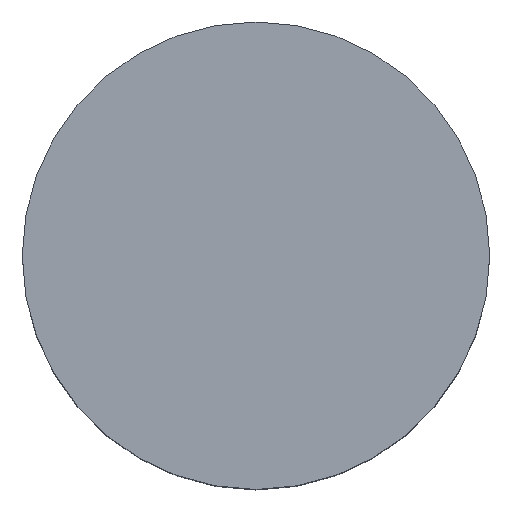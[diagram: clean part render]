
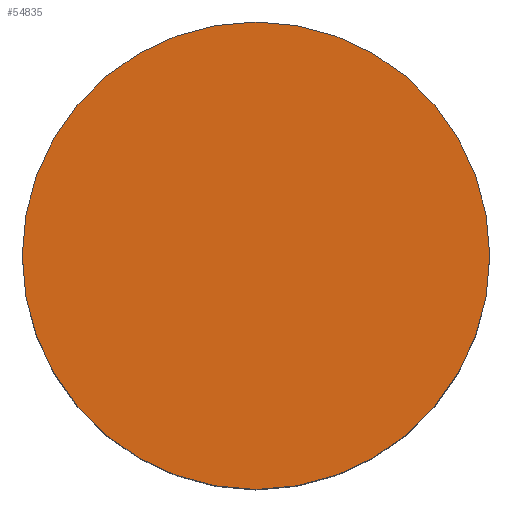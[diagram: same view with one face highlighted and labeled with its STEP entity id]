
A CAD part, top view. The second image highlights one B-rep face of the part: STEP entity #54835.
In plain terms, the highlighted planar face has unit normal (0, 0, 1).
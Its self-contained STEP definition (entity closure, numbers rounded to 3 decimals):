
#16541 = CARTESIAN_POINT ( 'NONE',  ( -30.15, 0., 41. ) ) ;
#16542 = CARTESIAN_POINT ( 'NONE',  ( 30.15, 0., 41. ) ) ;
#16543 = DIRECTION ( 'NONE',  ( 1., 0., 0. ) ) ;
#16544 = DIRECTION ( 'NONE',  ( 0., 0., 1. ) ) ;
#16545 = AXIS2_PLACEMENT_3D ( 'NONE', #16552, #16544, #16543 ) ;
#16546 = CIRCLE ( 'NONE', #16545, 30.15 ) ;
#16552 = CARTESIAN_POINT ( 'NONE',  ( 0., 0., 41. ) ) ;
#16730 = FACE_OUTER_BOUND ( 'NONE', #54836, .T. ) ;
#16784 = DIRECTION ( 'NONE',  ( 1., 0., 0. ) ) ;
#16785 = DIRECTION ( 'NONE',  ( 0., 0., 1. ) ) ;
#16786 = CARTESIAN_POINT ( 'NONE',  ( 0., 0., 41. ) ) ;
#16787 = AXIS2_PLACEMENT_3D ( 'NONE', #16786, #16785, #16784 ) ;
#16788 = CIRCLE ( 'NONE', #16787, 30.15 ) ;
#16789 = DIRECTION ( 'NONE',  ( 1., 0., 0. ) ) ;
#16790 = DIRECTION ( 'NONE',  ( 0., 0., 1. ) ) ;
#16791 = CARTESIAN_POINT ( 'NONE',  ( 0., 0., 41. ) ) ;
#16792 = AXIS2_PLACEMENT_3D ( 'NONE', #16791, #16790, #16789 ) ;
#16793 = PLANE ( 'NONE',  #16792 ) ;
#54726 = EDGE_CURVE ( 'NONE', #54727, #54728, #16546, .T. ) ;
#54727 = VERTEX_POINT ( 'NONE', #16542 ) ;
#54728 = VERTEX_POINT ( 'NONE', #16541 ) ;
#54835 = ADVANCED_FACE ( 'NONE', ( #16730 ), #16793, .T. ) ;
#54836 = EDGE_LOOP ( 'NONE', ( #54837, #54839 ) ) ;
#54837 = ORIENTED_EDGE ( 'NONE', *, *, #54838, .T. ) ;
#54838 = EDGE_CURVE ( 'NONE', #54728, #54727, #16788, .T. ) ;
#54839 = ORIENTED_EDGE ( 'NONE', *, *, #54726, .T. ) ;
